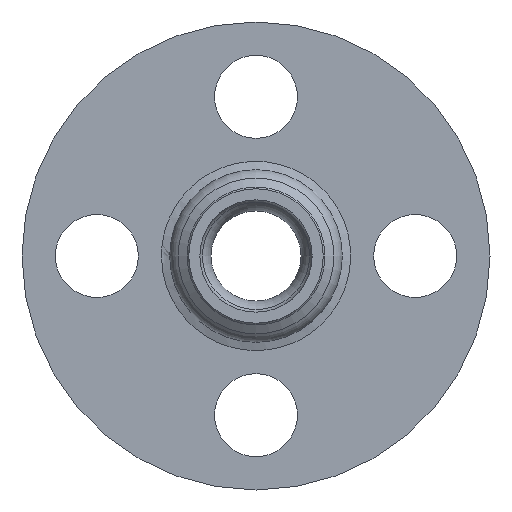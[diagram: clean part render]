
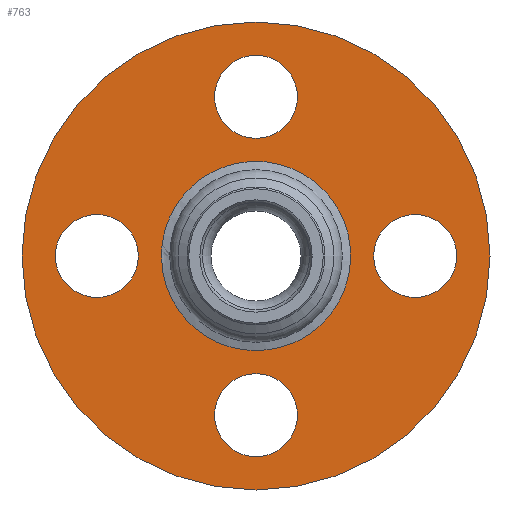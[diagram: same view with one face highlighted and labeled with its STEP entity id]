
A CAD part, left-side view. The second image highlights one B-rep face of the part: STEP entity #763.
In plain terms, the highlighted planar face has unit normal (-1, 0, 0).
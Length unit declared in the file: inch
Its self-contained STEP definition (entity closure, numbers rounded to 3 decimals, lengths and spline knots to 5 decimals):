
#60=FACE_BOUND('',#121,.T.);
#61=FACE_BOUND('',#122,.T.);
#62=FACE_BOUND('',#123,.T.);
#63=FACE_BOUND('',#124,.T.);
#64=FACE_BOUND('',#125,.T.);
#73=PLANE('',#828);
#80=B_SPLINE_CURVE_WITH_KNOTS('',3,(#1395,#1396,#1397,#1398,#1399,#1400,
#1401,#1402,#1403,#1404,#1405,#1406,#1407,#1408,#1409,#1410,#1411,#1412),
 .UNSPECIFIED.,.T.,.F.,(4,1,1,1,1,1,1,1,1,1,1,1,1,1,1,4),(-5.61073,
-4.8092,-4.00767,-3.20613,-2.4046,
-1.87024,-0.80153,0.26718,0.80153,
1.33589,2.4046,2.93895,4.00767,4.8092,
5.20996,5.61073),.UNSPECIFIED.);
#87=FACE_OUTER_BOUND('',#120,.T.);
#120=EDGE_LOOP('',(#510,#511));
#121=EDGE_LOOP('',(#512));
#122=EDGE_LOOP('',(#513));
#123=EDGE_LOOP('',(#514));
#124=EDGE_LOOP('',(#515));
#125=EDGE_LOOP('',(#516));
#195=CIRCLE('',#814,0.31);
#198=CIRCLE('',#818,0.31);
#201=CIRCLE('',#822,0.31);
#204=CIRCLE('',#826,0.31);
#206=CIRCLE('',#829,1.75);
#207=CIRCLE('',#830,1.75);
#289=VERTEX_POINT('',#1252);
#292=VERTEX_POINT('',#1260);
#295=VERTEX_POINT('',#1268);
#298=VERTEX_POINT('',#1276);
#299=VERTEX_POINT('',#1369);
#302=VERTEX_POINT('',#1414);
#303=VERTEX_POINT('',#1415);
#375=EDGE_CURVE('',#289,#289,#195,.T.);
#379=EDGE_CURVE('',#292,#292,#198,.T.);
#383=EDGE_CURVE('',#295,#295,#201,.T.);
#387=EDGE_CURVE('',#298,#298,#204,.T.);
#391=EDGE_CURVE('',#299,#299,#80,.T.);
#392=EDGE_CURVE('',#302,#303,#206,.T.);
#393=EDGE_CURVE('',#303,#302,#207,.T.);
#510=ORIENTED_EDGE('',*,*,#392,.F.);
#511=ORIENTED_EDGE('',*,*,#393,.F.);
#512=ORIENTED_EDGE('',*,*,#375,.T.);
#513=ORIENTED_EDGE('',*,*,#379,.T.);
#514=ORIENTED_EDGE('',*,*,#383,.T.);
#515=ORIENTED_EDGE('',*,*,#387,.T.);
#516=ORIENTED_EDGE('',*,*,#391,.F.);
#763=ADVANCED_FACE('',(#87,#60,#61,#62,#63,#64),#73,.T.);
#814=AXIS2_PLACEMENT_3D('',#1254,#959,#960);
#818=AXIS2_PLACEMENT_3D('',#1262,#968,#969);
#822=AXIS2_PLACEMENT_3D('',#1270,#977,#978);
#826=AXIS2_PLACEMENT_3D('',#1278,#986,#987);
#828=AXIS2_PLACEMENT_3D('',#1413,#990,#991);
#829=AXIS2_PLACEMENT_3D('',#1416,#992,#993);
#830=AXIS2_PLACEMENT_3D('',#1417,#994,#995);
#959=DIRECTION('center_axis',(1.,0.,0.));
#960=DIRECTION('ref_axis',(0.,-1.,0.));
#968=DIRECTION('center_axis',(1.,0.,0.));
#969=DIRECTION('ref_axis',(0.,0.,1.));
#977=DIRECTION('center_axis',(1.,0.,0.));
#978=DIRECTION('ref_axis',(0.,1.,0.));
#986=DIRECTION('center_axis',(1.,0.,0.));
#987=DIRECTION('ref_axis',(0.,0.,-1.));
#990=DIRECTION('center_axis',(-1.,0.,0.));
#991=DIRECTION('ref_axis',(0.,0.,1.));
#992=DIRECTION('center_axis',(1.,0.,0.));
#993=DIRECTION('ref_axis',(0.,1.,0.));
#994=DIRECTION('center_axis',(1.,0.,0.));
#995=DIRECTION('ref_axis',(0.,1.,0.));
#1252=CARTESIAN_POINT('',(1.29,0.31,-1.19));
#1254=CARTESIAN_POINT('Origin',(1.29,0.,-1.19));
#1260=CARTESIAN_POINT('',(1.29,-1.19,-0.31));
#1262=CARTESIAN_POINT('Origin',(1.29,-1.19,0.));
#1268=CARTESIAN_POINT('',(1.29,-0.31,1.19));
#1270=CARTESIAN_POINT('Origin',(1.29,0.,1.19));
#1276=CARTESIAN_POINT('',(1.29,1.19,0.31));
#1278=CARTESIAN_POINT('Origin',(1.29,1.19,0.));
#1369=CARTESIAN_POINT('',(1.29,0.70738,0.00057));
#1395=CARTESIAN_POINT('Ctrl Pts',(1.29,0.70738,0.00057));
#1396=CARTESIAN_POINT('Ctrl Pts',(1.29,0.70746,-0.10486));
#1397=CARTESIAN_POINT('Ctrl Pts',(1.29,0.65949,-0.31705));
#1398=CARTESIAN_POINT('Ctrl Pts',(1.29,0.45646,-0.57157));
#1399=CARTESIAN_POINT('Ctrl Pts',(1.29,0.16318,-0.71327));
#1400=CARTESIAN_POINT('Ctrl Pts',(1.29,-0.12628,-0.71301));
#1401=CARTESIAN_POINT('Ctrl Pts',(1.29,-0.42527,-0.59615));
#1402=CARTESIAN_POINT('Ctrl Pts',(1.29,-0.6771,-0.32617));
#1403=CARTESIAN_POINT('Ctrl Pts',(1.29,-0.73112,0.03929));
#1404=CARTESIAN_POINT('Ctrl Pts',(1.29,-0.64739,0.30987));
#1405=CARTESIAN_POINT('Ctrl Pts',(1.29,-0.48728,0.5472));
#1406=CARTESIAN_POINT('Ctrl Pts',(1.29,-0.23228,0.69446));
#1407=CARTESIAN_POINT('Ctrl Pts',(1.29,0.12408,0.7218));
#1408=CARTESIAN_POINT('Ctrl Pts',(1.29,0.43285,0.60152));
#1409=CARTESIAN_POINT('Ctrl Pts',(1.29,0.62493,0.36004));
#1410=CARTESIAN_POINT('Ctrl Pts',(1.29,0.69518,0.15984));
#1411=CARTESIAN_POINT('Ctrl Pts',(1.29,0.70734,0.05329));
#1412=CARTESIAN_POINT('Ctrl Pts',(1.29,0.70738,0.00057));
#1413=CARTESIAN_POINT('Origin',(1.29,1.1725,0.));
#1414=CARTESIAN_POINT('',(1.29,1.75,0.));
#1415=CARTESIAN_POINT('',(1.29,-1.75,0.));
#1416=CARTESIAN_POINT('Origin',(1.29,0.,0.));
#1417=CARTESIAN_POINT('Origin',(1.29,0.,0.));
